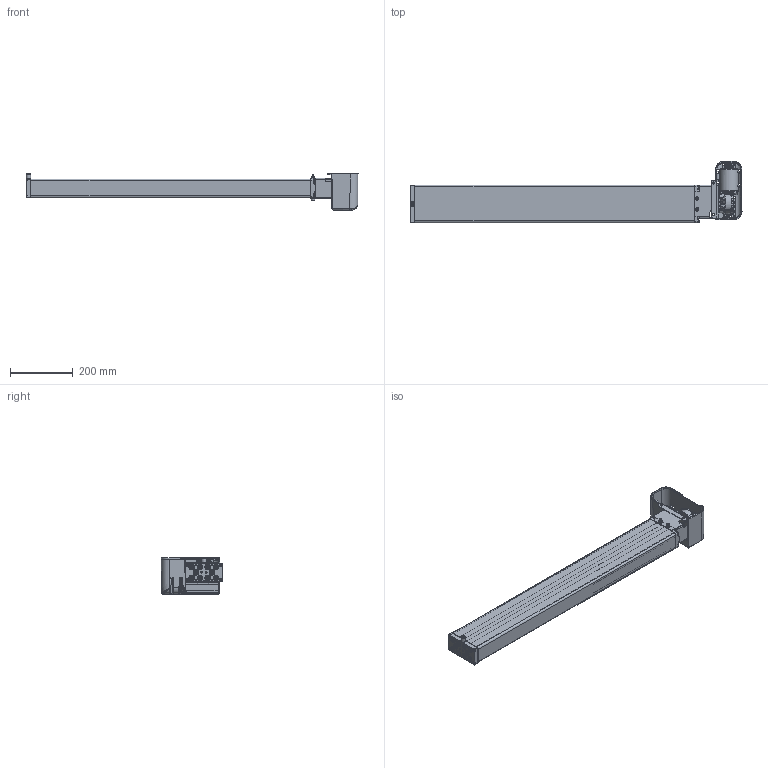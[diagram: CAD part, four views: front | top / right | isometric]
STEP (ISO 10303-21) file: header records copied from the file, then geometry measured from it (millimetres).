
FILE_DESCRIPTION(/* description */ ('Unknown'),/* implementation_level */ '2;1');
FILE_NAME(/* name */ '3X2.20188 Pumpe PB 0440 W mit Antrieb',/* time_stamp */ '2016-11-03T16:58:13+01:00',/* author */ ('Unknown'),/* organization */ ('Unknown'),/* preprocessor_version */ 'ST-DEVELOPER v16.7',/* originating_system */ 'DEX',/* authorisation */ $);
FILE_SCHEMA (('AUTOMOTIVE_DESIGN {1 0 10303 214 3 1 1}'));
Products named in the file (32): 102.00188; 115.10027; 125.00031; 115.00007; 142.00021; 125.00021; 142.00013; 125.00147; 115.00140; 126.00006; 122.00040; 119.00047; 126.00036; 127.00201; 127.00200; 127.00023; 124.00090; Getriebe; Ring; Schraube; Stator; Abdeckplatte; Antriebswelle; 128.00051; 123.00031; 142.00018; 142.00019; 142.00025; 142.00131; 123.00029; 142.00057; 142.00017
Assembly tree (53 placements, depth 3):
  102.00188
    115.10027  x10
      125.00031
      115.00007
      142.00021
      125.00021
    142.00013  x8
    125.00147
    115.00140
      126.00006
      122.00040
    119.00047
    126.00036
    127.00201
      127.00200
      127.00023
    124.00090
      Getriebe
      Ring
      Schraube
      Stator
      Abdeckplatte
      Antriebswelle
    128.00051
    123.00031
    142.00018  x2
    142.00019  x2
    142.00025  x2
    142.00131  x3
    123.00029
    142.00057
    142.00017  x2
Bounding box: 1059.45 x 196.04 x 115.45 mm (x, y, z)
Volume: 1579843.7 mm3; surface area: 1059402 mm2
Topology: 66 solids, 68 shells, 4468 faces, 11188 edges, 6869 vertices
Faces by surface type: plane 1403, cylinder 1208, bspline 1040, cone 517, torus 200, sphere 100
Full cylindrical faces by diameter (mm): 2.5 x4, 3.2 x4, 3.5 x10, 3.9 x5, 4.1 x10, 4.134 x4, 4.2 x12, 4.4 x5, 4.5 x1, 4.917 x4, 5 x8, 5.5 x5, 5.8 x4, 6 x8, 6.4 x2, 6.8 x6, 6.917 x20, 7 x1, 8 x22, 8.5 x6, 9 x12, 9.5 x1, 9.8 x8, 10 x10, 10.3 x1, 10.32 x1, 10.4 x1, 10.5 x4, 11 x5, 12.5 x10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
Entity records: 164952 total; most frequent: CARTESIAN_POINT 80622, ORIENTED_EDGE 16008, DIRECTION 12027, EDGE_CURVE 8004, VERTEX_POINT 5254, AXIS2_PLACEMENT_3D 4657, FACE_BOUND 4000, EDGE_LOOP 3995
